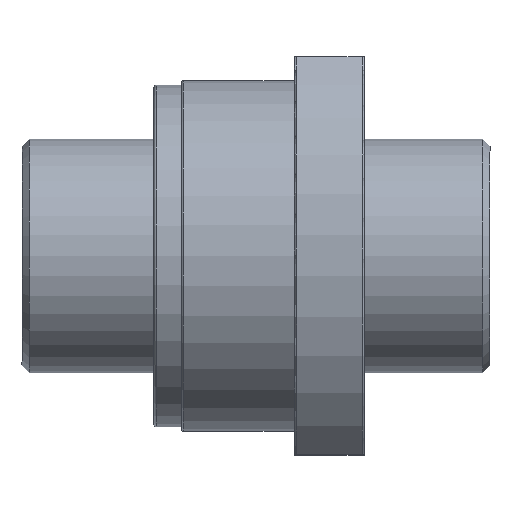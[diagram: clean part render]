
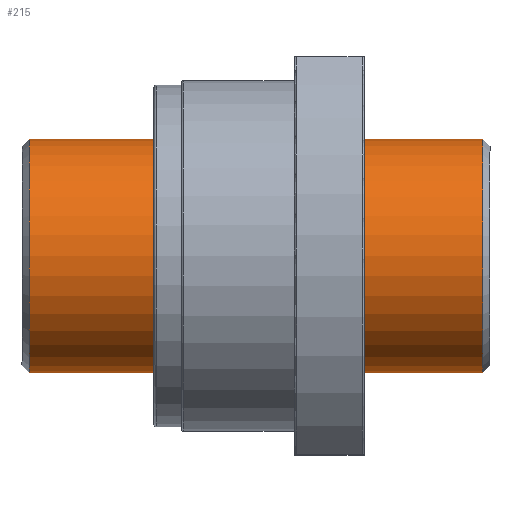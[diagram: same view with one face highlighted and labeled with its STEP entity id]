
A CAD part, top view. The second image highlights one B-rep face of the part: STEP entity #215.
In plain terms, the highlighted cylindrical face has radius 25 mm (diameter 50 mm), a full revolution.
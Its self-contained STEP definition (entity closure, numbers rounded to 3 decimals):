
#146=CYLINDRICAL_SURFACE('',#736,25.);
#215=ADVANCED_FACE('',(#285,#286),#146,.T.);
#285=FACE_BOUND('',#367,.T.);
#286=FACE_BOUND('',#368,.T.);
#367=EDGE_LOOP('',(#489));
#368=EDGE_LOOP('',(#490));
#489=ORIENTED_EDGE('',*,*,#607,.T.);
#490=ORIENTED_EDGE('',*,*,#608,.T.);
#546=VERTEX_POINT('',#1209);
#547=VERTEX_POINT('',#1211);
#607=EDGE_CURVE('',#546,#546,#652,.T.);
#608=EDGE_CURVE('',#547,#547,#653,.T.);
#652=CIRCLE('',#734,25.);
#653=CIRCLE('',#735,25.);
#734=AXIS2_PLACEMENT_3D('',#1208,#907,#908);
#735=AXIS2_PLACEMENT_3D('',#1210,#909,#910);
#736=AXIS2_PLACEMENT_3D('',#1212,#911,#912);
#907=DIRECTION('',(-1.,0.,0.));
#908=DIRECTION('',(0.,-1.,0.));
#909=DIRECTION('',(1.,0.,0.));
#910=DIRECTION('',(0.,-1.,0.));
#911=DIRECTION('',(1.,0.,0.));
#912=DIRECTION('',(0.,1.,0.));
#1208=CARTESIAN_POINT('',(-1.5,0.,0.));
#1209=CARTESIAN_POINT('',(-1.5,-25.,0.));
#1210=CARTESIAN_POINT('',(-98.5,0.,0.));
#1211=CARTESIAN_POINT('',(-98.5,-25.,0.));
#1212=CARTESIAN_POINT('',(-100.,0.,0.));
